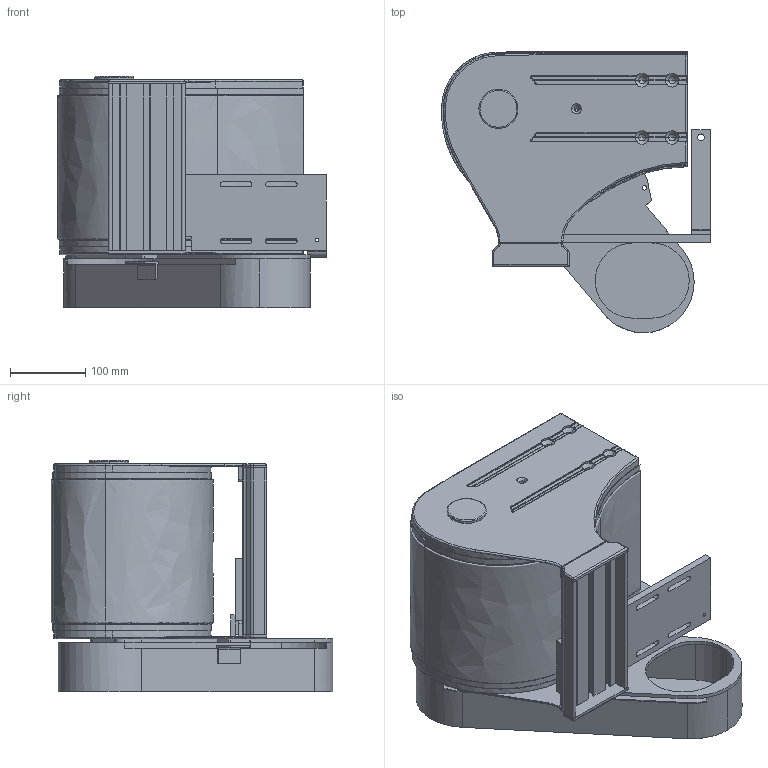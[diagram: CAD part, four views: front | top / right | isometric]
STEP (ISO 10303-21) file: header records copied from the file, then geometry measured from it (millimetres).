
FILE_DESCRIPTION (( 'STEP AP214' ), '1' );
FILE_NAME ('F2 750 MSD30.step', '2017-04-05T07:34:48', ( '' ), ( '' ), 'SwSTEP 2.0', 'SolidWorks 2015', '' );
FILE_SCHEMA (( 'AUTOMOTIVE_DESIGN' ));
Length unit declared in the file: millimetre
Products named in the file (1): F2 750 MSD30
Bounding box: 357.48 x 374.02 x 307.55 mm (x, y, z)
Volume: 14632267.1 mm3; surface area: 882859.6 mm2
Topology: 9 solids, 9 shells, 819 faces, 2139 edges, 1313 vertices
Faces by surface type: cylinder 359, plane 270, torus 122, cone 40, bspline 28
Entity records: 30011 total; most frequent: CARTESIAN_POINT 7111, DIRECTION 4314, ORIENTED_EDGE 4222, EDGE_CURVE 2111, AXIS2_PLACEMENT_3D 1639, VERTEX_POINT 1313, LINE 1036, VECTOR 1036
